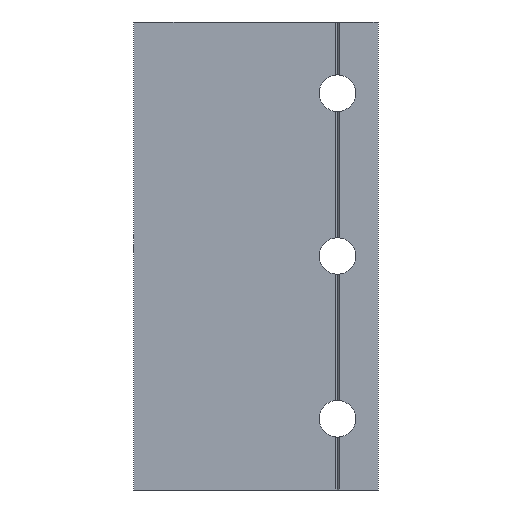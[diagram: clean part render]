
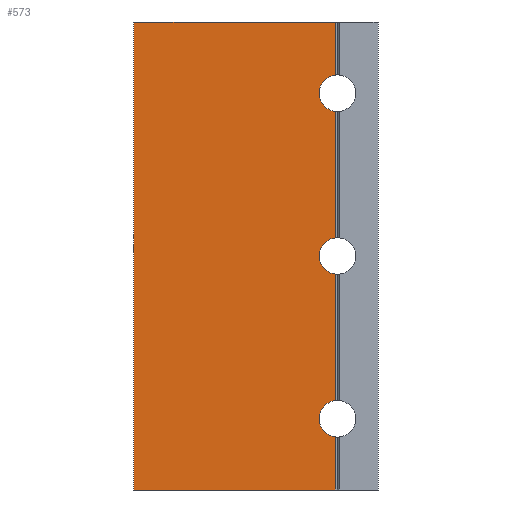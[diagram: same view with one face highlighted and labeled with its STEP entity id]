
A CAD part, front view. The second image highlights one B-rep face of the part: STEP entity #573.
In plain terms, the highlighted planar face has unit normal (0, -1, 0).
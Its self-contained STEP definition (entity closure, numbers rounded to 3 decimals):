
#25 = VECTOR ( 'NONE', #1782, 1000. ) ;
#55 = DIRECTION ( 'NONE',  ( 0., 0., -1. ) ) ;
#138 = ORIENTED_EDGE ( 'NONE', *, *, #1838, .F. ) ;
#150 = CARTESIAN_POINT ( 'NONE',  ( 50., 0., 0. ) ) ;
#157 = VERTEX_POINT ( 'NONE', #1610 ) ;
#194 = DIRECTION ( 'NONE',  ( 0., 0., 1. ) ) ;
#225 = VECTOR ( 'NONE', #2096, 1000. ) ;
#281 = VECTOR ( 'NONE', #766, 1000. ) ;
#282 = CARTESIAN_POINT ( 'NONE',  ( 49.5, 0., -57.5 ) ) ;
#294 = ORIENTED_EDGE ( 'NONE', *, *, #1996, .T. ) ;
#312 = VERTEX_POINT ( 'NONE', #472 ) ;
#330 = DIRECTION ( 'NONE',  ( 0., 0., 1. ) ) ;
#342 = CARTESIAN_POINT ( 'NONE',  ( 49.5, 0., -35.528 ) ) ;
#344 = AXIS2_PLACEMENT_3D ( 'NONE', #2201, #1138, #2299 ) ;
#356 = LINE ( 'NONE', #561, #782 ) ;
#376 = DIRECTION ( 'NONE',  ( 0., 0., 1. ) ) ;
#387 = DIRECTION ( 'NONE',  ( 0., 0., 1. ) ) ;
#397 = CARTESIAN_POINT ( 'NONE',  ( 49.5, 0., 4.472 ) ) ;
#469 = DIRECTION ( 'NONE',  ( 0., 0., 1. ) ) ;
#472 = CARTESIAN_POINT ( 'NONE',  ( 0., 0., 57.5 ) ) ;
#504 = VERTEX_POINT ( 'NONE', #282 ) ;
#561 = CARTESIAN_POINT ( 'NONE',  ( 49.5, 0., -57.5 ) ) ;
#573 = ADVANCED_FACE ( 'NONE', ( #1043 ), #2060, .F. ) ;
#575 = CARTESIAN_POINT ( 'NONE',  ( 0., 0., 57.5 ) ) ;
#592 = ORIENTED_EDGE ( 'NONE', *, *, #1960, .T. ) ;
#652 = CIRCLE ( 'NONE', #2040, 4.5 ) ;
#658 = CIRCLE ( 'NONE', #1500, 4.5 ) ;
#675 = ORIENTED_EDGE ( 'NONE', *, *, #2129, .T. ) ;
#759 = CARTESIAN_POINT ( 'NONE',  ( 49.5, 0., 44.472 ) ) ;
#766 = DIRECTION ( 'NONE',  ( 1., 0., 0. ) ) ;
#782 = VECTOR ( 'NONE', #194, 1000. ) ;
#832 = LINE ( 'NONE', #1449, #1239 ) ;
#854 = VERTEX_POINT ( 'NONE', #342 ) ;
#888 = ORIENTED_EDGE ( 'NONE', *, *, #1747, .T. ) ;
#951 = ORIENTED_EDGE ( 'NONE', *, *, #1019, .F. ) ;
#1002 = CARTESIAN_POINT ( 'NONE',  ( 49.5, 0., 57.5 ) ) ;
#1019 = EDGE_CURVE ( 'NONE', #312, #1238, #2121, .T. ) ;
#1043 = FACE_OUTER_BOUND ( 'NONE', #1075, .T. ) ;
#1060 = EDGE_CURVE ( 'NONE', #2235, #1332, #652, .T. ) ;
#1075 = EDGE_LOOP ( 'NONE', ( #592, #1339, #1786, #138, #888, #951, #1250, #294, #675, #1885 ) ) ;
#1124 = DIRECTION ( 'NONE',  ( 0., -1., 0. ) ) ;
#1138 = DIRECTION ( 'NONE',  ( 0., -1., 0. ) ) ;
#1167 = VECTOR ( 'NONE', #1644, 1000. ) ;
#1225 = VECTOR ( 'NONE', #387, 1000. ) ;
#1236 = CARTESIAN_POINT ( 'NONE',  ( 49.5, 0., -57.5 ) ) ;
#1238 = VERTEX_POINT ( 'NONE', #1002 ) ;
#1239 = VECTOR ( 'NONE', #376, 1000. ) ;
#1250 = ORIENTED_EDGE ( 'NONE', *, *, #1986, .T. ) ;
#1278 = LINE ( 'NONE', #1997, #1225 ) ;
#1308 = CARTESIAN_POINT ( 'NONE',  ( 49.5, 0., -4.472 ) ) ;
#1332 = VERTEX_POINT ( 'NONE', #397 ) ;
#1337 = VERTEX_POINT ( 'NONE', #1832 ) ;
#1339 = ORIENTED_EDGE ( 'NONE', *, *, #1060, .T. ) ;
#1401 = DIRECTION ( 'NONE',  ( 0., 1., 0. ) ) ;
#1449 = CARTESIAN_POINT ( 'NONE',  ( 49.5, 0., -57.5 ) ) ;
#1450 = LINE ( 'NONE', #1236, #25 ) ;
#1476 = VERTEX_POINT ( 'NONE', #2252 ) ;
#1500 = AXIS2_PLACEMENT_3D ( 'NONE', #2185, #1124, #55 ) ;
#1515 = CIRCLE ( 'NONE', #344, 4.5 ) ;
#1538 = DIRECTION ( 'NONE',  ( 0., 1., 0. ) ) ;
#1573 = CARTESIAN_POINT ( 'NONE',  ( 0., 0., 57.5 ) ) ;
#1610 = CARTESIAN_POINT ( 'NONE',  ( 0., 0., -57.5 ) ) ;
#1644 = DIRECTION ( 'NONE',  ( 0., 0., -1. ) ) ;
#1707 = LINE ( 'NONE', #575, #1167 ) ;
#1708 = CARTESIAN_POINT ( 'NONE',  ( 0., 0., 57.5 ) ) ;
#1747 = EDGE_CURVE ( 'NONE', #1796, #1238, #356, .T. ) ;
#1782 = DIRECTION ( 'NONE',  ( 0., 0., 1. ) ) ;
#1786 = ORIENTED_EDGE ( 'NONE', *, *, #1849, .T. ) ;
#1796 = VERTEX_POINT ( 'NONE', #759 ) ;
#1832 = CARTESIAN_POINT ( 'NONE',  ( 49.5, 0., -44.472 ) ) ;
#1838 = EDGE_CURVE ( 'NONE', #1796, #1476, #1515, .T. ) ;
#1841 = CARTESIAN_POINT ( 'NONE',  ( 0., 0., -57.5 ) ) ;
#1849 = EDGE_CURVE ( 'NONE', #1332, #1476, #1450, .T. ) ;
#1885 = ORIENTED_EDGE ( 'NONE', *, *, #2211, .F. ) ;
#1960 = EDGE_CURVE ( 'NONE', #854, #2235, #1278, .T. ) ;
#1986 = EDGE_CURVE ( 'NONE', #312, #157, #1707, .T. ) ;
#1996 = EDGE_CURVE ( 'NONE', #157, #504, #2063, .T. ) ;
#1997 = CARTESIAN_POINT ( 'NONE',  ( 49.5, 0., -57.5 ) ) ;
#2040 = AXIS2_PLACEMENT_3D ( 'NONE', #150, #1401, #330 ) ;
#2060 = PLANE ( 'NONE',  #2242 ) ;
#2063 = LINE ( 'NONE', #1841, #281 ) ;
#2096 = DIRECTION ( 'NONE',  ( 1., 0., 0. ) ) ;
#2121 = LINE ( 'NONE', #1573, #225 ) ;
#2129 = EDGE_CURVE ( 'NONE', #504, #1337, #832, .T. ) ;
#2185 = CARTESIAN_POINT ( 'NONE',  ( 50., 0., -40. ) ) ;
#2201 = CARTESIAN_POINT ( 'NONE',  ( 50., 0., 40. ) ) ;
#2211 = EDGE_CURVE ( 'NONE', #854, #1337, #658, .T. ) ;
#2235 = VERTEX_POINT ( 'NONE', #1308 ) ;
#2242 = AXIS2_PLACEMENT_3D ( 'NONE', #1708, #1538, #469 ) ;
#2252 = CARTESIAN_POINT ( 'NONE',  ( 49.5, 0., 35.528 ) ) ;
#2299 = DIRECTION ( 'NONE',  ( 0., 0., -1. ) ) ;
